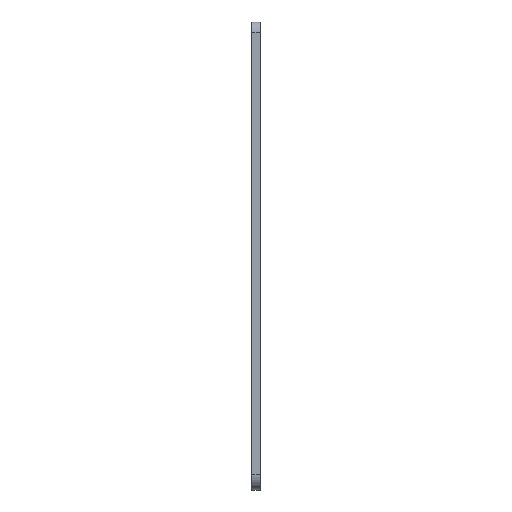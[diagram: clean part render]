
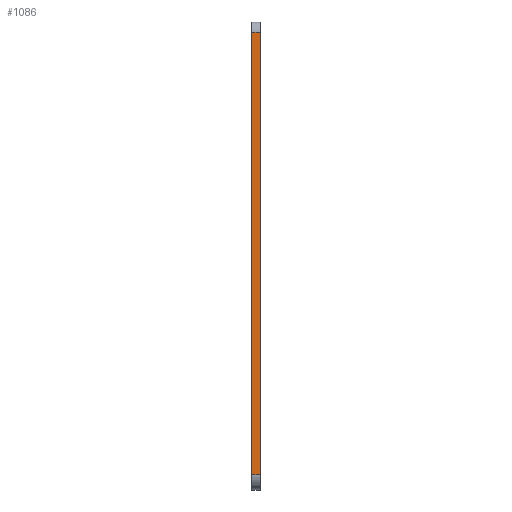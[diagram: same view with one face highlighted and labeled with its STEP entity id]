
A CAD part, left-side view. The second image highlights one B-rep face of the part: STEP entity #1086.
In plain terms, the highlighted planar face has unit normal (-1, 0, 0).
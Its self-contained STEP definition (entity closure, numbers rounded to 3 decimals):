
#48 = CARTESIAN_POINT ( 'NONE',  ( -71.371, 2., 233.835 ) ) ;
#98 = VECTOR ( 'NONE', #1362, 1000. ) ;
#102 = CARTESIAN_POINT ( 'NONE',  ( -71.371, 2., 124.246 ) ) ;
#110 = CARTESIAN_POINT ( 'NONE',  ( -71.371, 0., 233.835 ) ) ;
#166 = FACE_OUTER_BOUND ( 'NONE', #418, .T. ) ;
#198 = LINE ( 'NONE', #1027, #98 ) ;
#260 = CARTESIAN_POINT ( 'NONE',  ( -71.371, 0., 124.246 ) ) ;
#285 = EDGE_CURVE ( 'NONE', #1151, #929, #723, .T. ) ;
#305 = EDGE_CURVE ( 'NONE', #657, #1151, #736, .T. ) ;
#312 = LINE ( 'NONE', #102, #1265 ) ;
#339 = DIRECTION ( 'NONE',  ( 0., -1., 0. ) ) ;
#348 = PLANE ( 'NONE',  #923 ) ;
#383 = ORIENTED_EDGE ( 'NONE', *, *, #798, .T. ) ;
#418 = EDGE_LOOP ( 'NONE', ( #536, #1072, #699, #383 ) ) ;
#427 = VERTEX_POINT ( 'NONE', #260 ) ;
#454 = VECTOR ( 'NONE', #749, 1000. ) ;
#536 = ORIENTED_EDGE ( 'NONE', *, *, #548, .T. ) ;
#544 = CARTESIAN_POINT ( 'NONE',  ( -71.371, 2., 143.035 ) ) ;
#548 = EDGE_CURVE ( 'NONE', #427, #929, #198, .T. ) ;
#567 = CARTESIAN_POINT ( 'NONE',  ( -71.371, 2., 143.035 ) ) ;
#628 = CARTESIAN_POINT ( 'NONE',  ( -71.371, 2., 233.835 ) ) ;
#657 = VERTEX_POINT ( 'NONE', #675 ) ;
#675 = CARTESIAN_POINT ( 'NONE',  ( -71.371, 2., 124.246 ) ) ;
#699 = ORIENTED_EDGE ( 'NONE', *, *, #305, .F. ) ;
#723 = LINE ( 'NONE', #628, #1125 ) ;
#736 = LINE ( 'NONE', #544, #454 ) ;
#749 = DIRECTION ( 'NONE',  ( 0., 0., 1. ) ) ;
#798 = EDGE_CURVE ( 'NONE', #657, #427, #312, .T. ) ;
#923 = AXIS2_PLACEMENT_3D ( 'NONE', #567, #1084, #1327 ) ;
#929 = VERTEX_POINT ( 'NONE', #110 ) ;
#1027 = CARTESIAN_POINT ( 'NONE',  ( -71.371, 0., 143.035 ) ) ;
#1072 = ORIENTED_EDGE ( 'NONE', *, *, #285, .F. ) ;
#1084 = DIRECTION ( 'NONE',  ( 1., 0., 0. ) ) ;
#1086 = ADVANCED_FACE ( 'NONE', ( #166 ), #348, .F. ) ;
#1125 = VECTOR ( 'NONE', #339, 1000. ) ;
#1151 = VERTEX_POINT ( 'NONE', #48 ) ;
#1265 = VECTOR ( 'NONE', #1392, 1000. ) ;
#1327 = DIRECTION ( 'NONE',  ( 0., 0., -1. ) ) ;
#1362 = DIRECTION ( 'NONE',  ( 0., 0., 1. ) ) ;
#1392 = DIRECTION ( 'NONE',  ( 0., -1., 0. ) ) ;
